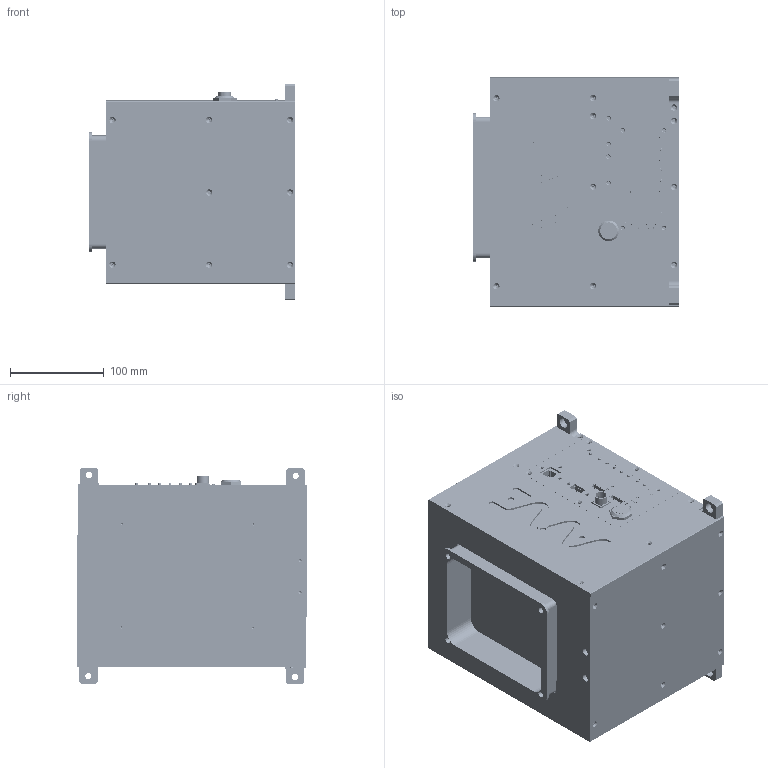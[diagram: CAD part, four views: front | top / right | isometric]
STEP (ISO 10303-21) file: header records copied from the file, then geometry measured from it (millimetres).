
FILE_DESCRIPTION(/* description */ (''),/* implementation_level */ '2;1');
FILE_NAME(/* name */ 'F:\OneDrive\3.설계,도면\1.AIVE\Workspaces\작업공간\AIVE2.0\AIVE2.1.stp',/* time_stamp */ '2021-04-05T21:37:36+09:00',/* author */ ('houns'),/* organization */ (''),/* preprocessor_version */ 'ST-DEVELOPER v18',/* originating_system */ 'Autodesk Inventor 2020',/* authorisation */ '');
FILE_SCHEMA (('AUTOMOTIVE_DESIGN { 1 0 10303 214 3 1 1 }'));
Products named in the file (55): AIVE2.0; Middle plate_2225_r2; Base plate_1215; Rear cover; Basket2018_191128; AV2.0_12_Top cover_1215; Logo side bracket_1215; AV16_PCB bracket; Spring; Right side cover_1215; Rear cover_1215; cONTROLLER; AV13_Operation panel_1215; 파워버튼; PRC커넥터; USB 포트; RJ45 포트; AV13_Operation panel2; LM bearing; LM bearing_1; SEBS10-55_r; SEBS10_b; AV3.0_16_LM block; SSEB10-55; SSEB10-55_r; SSEB10_b; Basket bracket_R3; Basket bracket_R2; Basket bracket_R2_1; Basket bracket_R2_2; Basket bracket_R2_3; AV3.0_16_Basket2018_볼트용; Motor drive; VPD-101_V300_Amplifier_______; CLP-125-02-L-D_______; _CLP-125-2-L-D_terminal_______; _C-106-22-125_Pin_______; SM05B-GHS-TB_______; SM08B-GHS-TB_______; VPD-101_V300_Controller_______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
Assembly tree (84 placements, depth 4):
  AIVE2.0
    Middle plate_2225_r2
    Column  x4
    Base plate_1215
    Rear cover
    Basket2018_191128
    AV2.0_12_Top cover_1215
    Rear cover_1215  x2
    Logo side bracket_1215  x2
    AV16_PCB bracket
    Spring  x2
    Right side cover_1215
    cONTROLLER
      AV13_Operation panel_1215
      파워버튼
      PRC커넥터
      USB 포트
      RJ45 포트
    AV13_Operation panel2
    LM bearing
      SEBS10-55_r
      SEBS10_b
    AV3.0_16_LM block  x2
    LM bearing_1
      SEBS10-55_r
      SEBS10_b
    SSEB10-55
      SSEB10-55_r
      SSEB10_b
    Basket bracket_R3
      Basket bracket_R2_3  x4
      Basket bracket_R2_2  x2
      Basket bracket_R2
      Basket bracket_R2_1
    AV3.0_16_Basket2018_볼트용  x2
    Motor drive
      VPD-101_V300_Amplifier_______
      CLP-125-02-L-D_______
        _CLP-125-2-L-D_terminal_______
        _C-106-22-125_Pin_______  x2
      SM04B-GHS-TB_______  x2
      SM05B-GHS-TB_______
      SM08B-GHS-TB_______
      SM10B-GHS-TB  x2
      VPD-101_V300_Controller_______
      1803277_______
      1803303_______
      USB_______
      Spacer  x8
      Bush  x4
      hexagon socket head cap screw_jis_JIS B 1176 M3 x 6 (6) --N  x4
      AV3.0_10_Board bracket
      조립품10
        파트5
        1803594
    Left side cover_1215
    LED
Bounding box: 218.5 x 244.67 x 230.82 mm (x, y, z)
Volume: 2122765.1 mm3; surface area: 955331.9 mm2
Topology: 98 solids, 98 shells, 7891 faces, 21700 edges, 14576 vertices
Faces by surface type: plane 5176, bspline 1416, cylinder 1067, cone 168, torus 53, sphere 11
Full cylindrical faces by diameter (mm): 0.2 x12, 0.3 x12, 0.457 x3, 0.9 x2, 1 x2, 1.2 x14, 1.25 x7, 1.567 x12, 1.6 x8, 2 x4, 2.2 x4, 2.459 x73, 2.5 x20, 2.8 x4, 2.9 x4, 3 x71, 3.2 x15, 3.242 x6, 3.3 x32, 3.4 x48, 3.5 x13, 3.6 x8, 4.134 x8, 4.4 x4, 4.5 x3, 5 x3, 5.5 x12, 6 x41, 6.5 x16, 6.78 x1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
Entity records: 228624 total; most frequent: CARTESIAN_POINT 57444, ORIENTED_EDGE 37056, DIRECTION 29108, EDGE_CURVE 18528, LINE 13096, VECTOR 13096, VERTEX_POINT 12488, AXIS2_PLACEMENT_3D 8006
